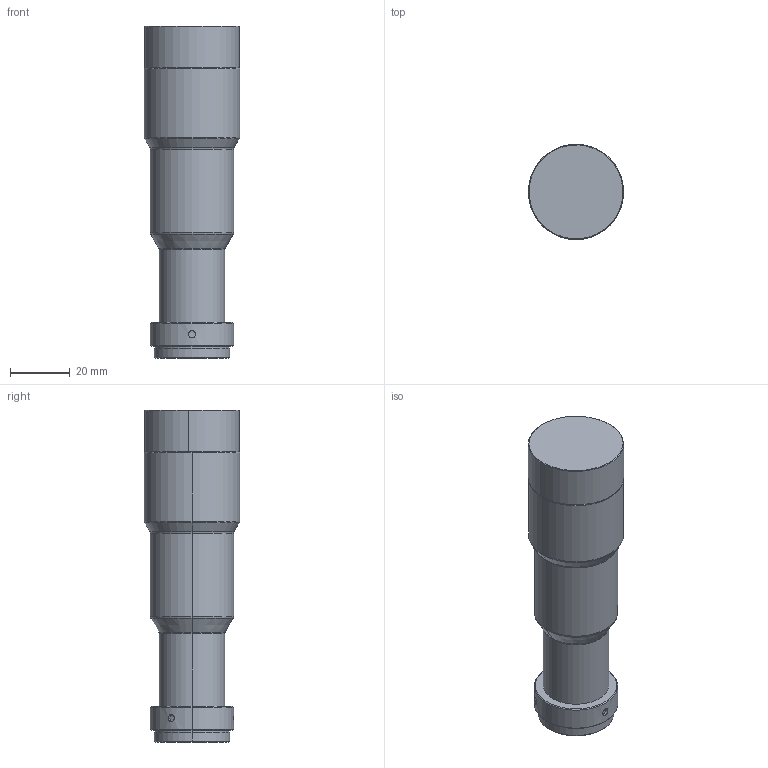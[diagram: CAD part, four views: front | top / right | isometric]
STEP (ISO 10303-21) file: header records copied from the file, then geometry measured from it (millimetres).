
FILE_DESCRIPTION (( 'STEP AP203' ), '1' );
FILE_NAME ('WWH08-108ATV3.STEP', '2024-03-04T06:15:48', ( '' ), ( '' ), 'SwSTEP 2.0', 'SolidWorks 2017', '' );
FILE_SCHEMA (( 'CONFIG_CONTROL_DESIGN' ));
Length unit declared in the file: millimetre
Products named in the file (1): WWH08-108ATV3
Bounding box: 32 x 32 x 111.56 mm (x, y, z)
Volume: 69171.6 mm3; surface area: 11595.5 mm2
Topology: 1 solids, 1 shells, 51 faces, 100 edges, 58 vertices
Faces by surface type: cylinder 23, cone 14, torus 8, plane 6
Entity records: 1557 total; most frequent: CARTESIAN_POINT 414, DIRECTION 246, ORIENTED_EDGE 200, AXIS2_PLACEMENT_3D 106, EDGE_CURVE 100, EDGE_LOOP 58, VERTEX_POINT 58, CIRCLE 54
